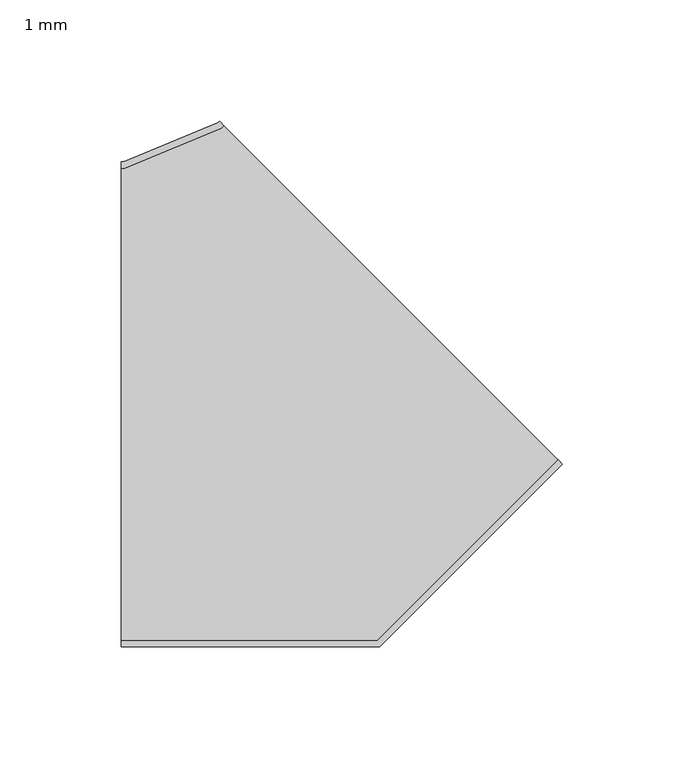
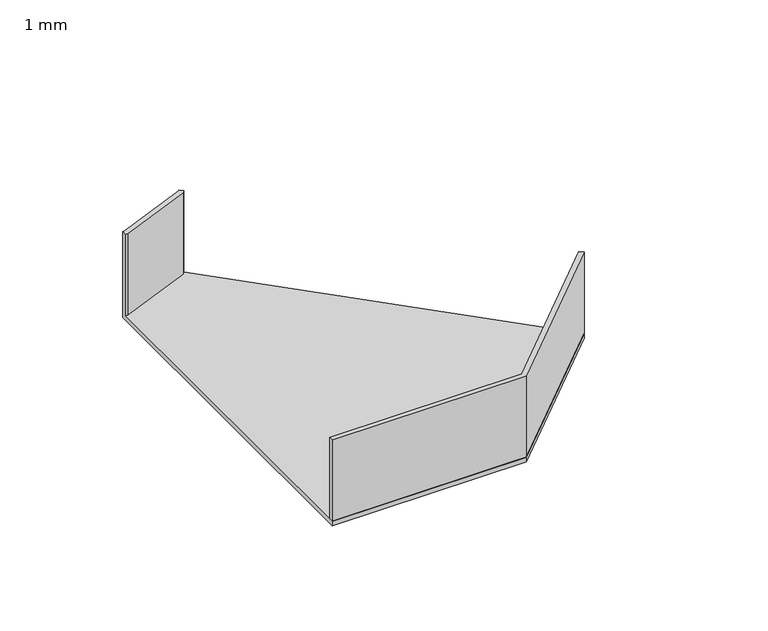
"""IFC4 building model written with IfcOpenShell, lengths in millimetres: cable carrier fitting geometry, BAKS_Kolano_koryta : 1 mm."""

from ifc_helpers import new_model, si_unit, frame, origin, place, context, project, spatial, polyline, outline, extrude, faceted_brep, source, transform, mapped, element, save


def cable_carrier_fitting_1_mm_874ef249(model_context):
    return source(origin(), model_context, "Body", "SolidModel", [
        faceted_brep([(-65.2031022, 97.46, 25.0), (-65.2031022, 100.0, 25.0), (-65.2031022, 100.0, -25.0), (-65.2031022, -100.0, -25.0), (-65.2031022, -100.0, -22.46), (-65.2031022, 97.46, -22.46), (-63.6978648, 97.46, 25.0), (-23.8734348, 113.955819, 25.0), (-22.8090712, 115.0201826, 25.0), (-24.6051224, 116.8162338, 25.0), (-25.3122292, 116.109127, 25.0), (-64.2031022, 100.0, 25.0), (-64.2031022, 100.0, -22.46), (-64.2031022, 100.0, -25.0), (-25.3122292, 116.109127, -25.0), (-24.6051224, 116.8162338, -25.0), (116.8162338, -24.6051224, -25.0), (41.4213562, -100.0, -25.0), (-63.6978648, 97.46, -22.46), (-25.3122292, 116.109127, -22.46), (-23.8734348, 113.955819, -22.46), (-22.8090712, 115.0201826, -22.46), (116.8162338, -24.6051224, -22.46), (41.4213562, -100.0, -22.46)], [[[0, 1, 2, 3, 4, 5]], [[1, 0, 6, 7, 8, 9, 10, 11]], [[2, 1, 11, 12, 13]], [[3, 2, 13, 14, 15, 16, 17]], [[6, 0, 5, 18]], [[11, 10, 19, 14, 13, 12]], [[7, 6, 18, 20]], [[9, 8, 21, 22, 16, 15]], [[10, 9, 15, 14, 19]], [[8, 7, 20, 21]], [[4, 23, 22, 21, 20, 18, 5]], [[23, 4, 3, 17]], [[22, 23, 17, 16]]]),
        extrude(outline(polyline([(-65.2031022, -100.0), (-65.2031022, -97.46), (40.3692538, -97.46), (115.0201826, -22.8090712), (116.8162338, -24.6051224), (41.4213562, -100.0), (-65.2031022, -100.0)])), frame((0.0, 0.0, -25.0), z_axis=(0.0, 0.0, 1.0), x_axis=(1.0, 0.0, 0.0)), (0.0, 0.0, 1.0), 50.0),
    ])


if __name__ == "__main__":
    model = new_model("IFC4")
    model_context = context("Model", 3, world=origin())
    ifc_project = project(units=[si_unit("LENGTHUNIT", "METRE", prefix="MILLI")], contexts=[model_context])
    site = spatial("IfcSite", under=ifc_project)
    building = spatial("IfcBuilding", under=site)
    placement = place(None, origin())
    cable_carrier_fitting_1_mm_shape = cable_carrier_fitting_1_mm_874ef249(model_context)
    element("IfcCableCarrierFitting", 1, ObjectType="BAKS_Kolano_koryta : 1 mm", at=placement, inside=building, context=model_context, shape_type="MappedRepresentation", body=[
        mapped(cable_carrier_fitting_1_mm_shape, transform((0.0, 0.0, 0.0), x_axis=(1.0, 0.0, 0.0), y_axis=(0.0, 1.0, 0.0), z_axis=(0.0, 0.0, 1.0))),
    ])
    save(model, "model.ifc")
